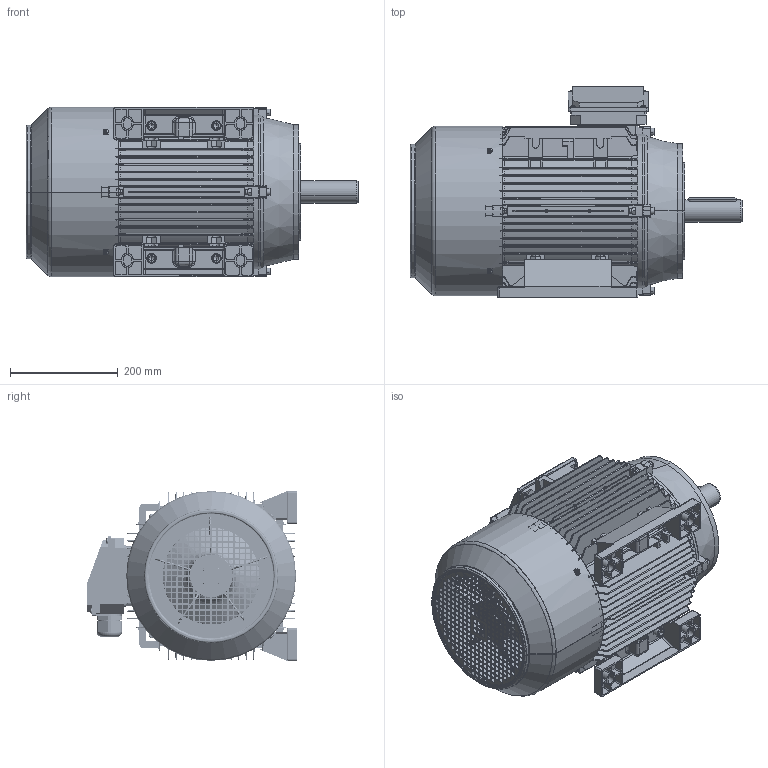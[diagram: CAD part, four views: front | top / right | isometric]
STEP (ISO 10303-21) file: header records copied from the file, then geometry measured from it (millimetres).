
FILE_DESCRIPTION (( 'STEP AP214' ), '1' );
FILE_NAME ('BMT4750.16H834.11.step', '2020-04-24T00:22:36', ( '' ), ( '' ), 'SwSTEP 2.0', 'SolidWorks 2019', '' );
FILE_SCHEMA (( 'AUTOMOTIVE_DESIGN' ));
Length unit declared in the file: millimetre
Products named in the file (1): BMT4750.16H834.11
Bounding box: 616 x 391 x 315 mm (x, y, z)
Volume: 6200696.3 mm3; surface area: 2750375.2 mm2
Topology: 45 solids, 45 shells, 6333 faces, 17076 edges, 10728 vertices
Faces by surface type: plane 3348, cylinder 1471, bspline 826, cone 403, torus 207, sphere 78
Entity records: 241523 total; most frequent: CARTESIAN_POINT 89318, ORIENTED_EDGE 33690, DIRECTION 28443, EDGE_CURVE 16845, VERTEX_POINT 10727, LINE 10009, VECTOR 10009, AXIS2_PLACEMENT_3D 9217
